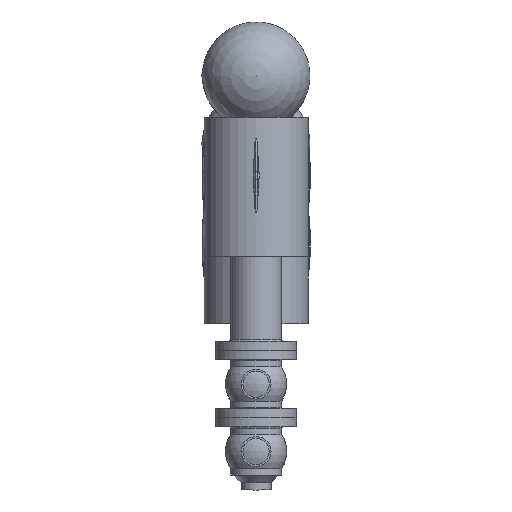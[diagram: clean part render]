
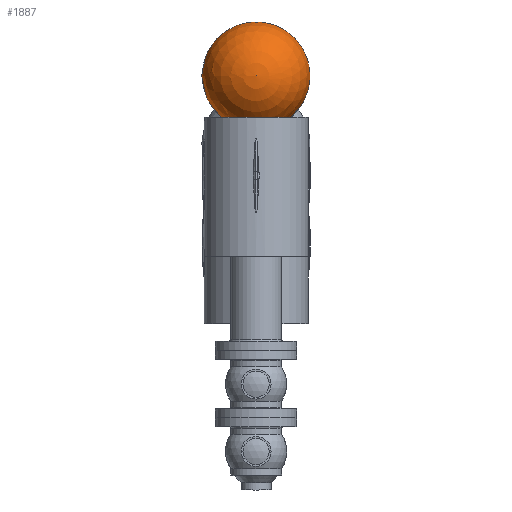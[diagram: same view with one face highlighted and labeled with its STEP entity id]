
A CAD part, front view. The second image highlights one B-rep face of the part: STEP entity #1887.
In plain terms, the highlighted spherical face has radius 72.5 mm.
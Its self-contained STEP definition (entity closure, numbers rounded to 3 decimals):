
#235=SPHERICAL_SURFACE('',#2269,72.5);
#261=FACE_BOUND('',#517,.T.);
#385=FACE_OUTER_BOUND('',#516,.T.);
#516=EDGE_LOOP('',(#1624,#1625));
#517=EDGE_LOOP('',(#1626));
#746=CIRCLE('',#2270,72.5);
#747=CIRCLE('',#2271,46.648);
#938=VERTEX_POINT('',#3765);
#939=VERTEX_POINT('',#3766);
#940=VERTEX_POINT('',#3768);
#1179=EDGE_CURVE('',#938,#939,#746,.T.);
#1180=EDGE_CURVE('',#940,#940,#747,.T.);
#1624=ORIENTED_EDGE('',*,*,#1179,.T.);
#1625=ORIENTED_EDGE('',*,*,#1179,.F.);
#1626=ORIENTED_EDGE('',*,*,#1180,.F.);
#1887=ADVANCED_FACE('',(#385,#261),#235,.T.);
#2269=AXIS2_PLACEMENT_3D('',#3764,#2820,#2821);
#2270=AXIS2_PLACEMENT_3D('',#3767,#2822,#2823);
#2271=AXIS2_PLACEMENT_3D('',#3769,#2824,#2825);
#2820=DIRECTION('center_axis',(0.,0.,1.));
#2821=DIRECTION('ref_axis',(1.,0.,0.));
#2822=DIRECTION('center_axis',(0.,-1.,0.));
#2823=DIRECTION('ref_axis',(-1.,0.,0.));
#2824=DIRECTION('center_axis',(0.,-1.,0.));
#2825=DIRECTION('ref_axis',(1.,0.,0.));
#3764=CARTESIAN_POINT('Origin',(150.,266.5,0.));
#3765=CARTESIAN_POINT('',(150.,266.5,72.5));
#3766=CARTESIAN_POINT('',(150.,266.5,-72.5));
#3767=CARTESIAN_POINT('Origin',(150.,266.5,0.));
#3768=CARTESIAN_POINT('',(196.648,211.,0.));
#3769=CARTESIAN_POINT('Origin',(150.,211.,0.));
